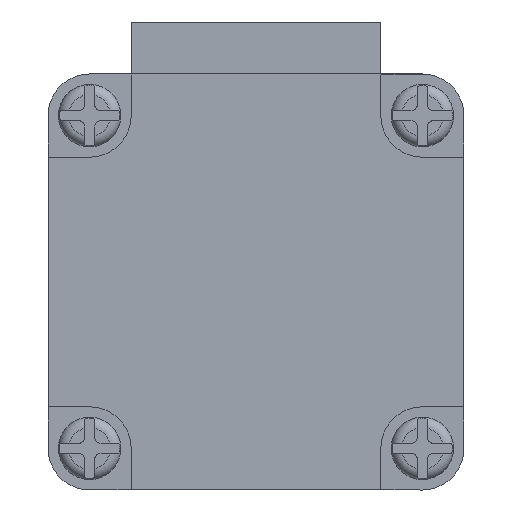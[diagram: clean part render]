
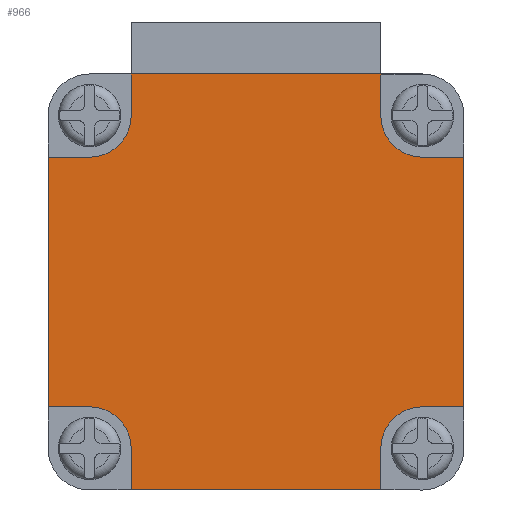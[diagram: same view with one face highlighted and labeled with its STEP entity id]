
A CAD part, front view. The second image highlights one B-rep face of the part: STEP entity #966.
In plain terms, the highlighted planar face has unit normal (0, -1, 0).
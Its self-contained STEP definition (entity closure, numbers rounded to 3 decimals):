
#5 = VECTOR ( 'NONE', #406, 1000. ) ;
#27 = CARTESIAN_POINT ( 'NONE',  ( 6., 0., 8. ) ) ;
#30 = LINE ( 'NONE', #411, #440 ) ;
#58 = EDGE_CURVE ( 'NONE', #1212, #116, #30, .T. ) ;
#64 = CARTESIAN_POINT ( 'NONE',  ( -10., 0., -6. ) ) ;
#68 = ORIENTED_EDGE ( 'NONE', *, *, #1359, .F. ) ;
#86 = DIRECTION ( 'NONE',  ( 0., 0., 1. ) ) ;
#107 = ORIENTED_EDGE ( 'NONE', *, *, #1592, .F. ) ;
#116 = VERTEX_POINT ( 'NONE', #163 ) ;
#117 = DIRECTION ( 'NONE',  ( 0., 0., 1. ) ) ;
#139 = CARTESIAN_POINT ( 'NONE',  ( -8., 0., -6. ) ) ;
#145 = ORIENTED_EDGE ( 'NONE', *, *, #1051, .F. ) ;
#163 = CARTESIAN_POINT ( 'NONE',  ( -8., 0., 6. ) ) ;
#183 = ORIENTED_EDGE ( 'NONE', *, *, #2316, .F. ) ;
#218 = CARTESIAN_POINT ( 'NONE',  ( 10., 0., 6. ) ) ;
#289 = CARTESIAN_POINT ( 'NONE',  ( 6., 0., -8. ) ) ;
#306 = ORIENTED_EDGE ( 'NONE', *, *, #354, .F. ) ;
#326 = DIRECTION ( 'NONE',  ( 0., 0., 1. ) ) ;
#344 = LINE ( 'NONE', #1732, #662 ) ;
#354 = EDGE_CURVE ( 'NONE', #467, #1357, #1077, .T. ) ;
#371 = ORIENTED_EDGE ( 'NONE', *, *, #1813, .F. ) ;
#375 = VECTOR ( 'NONE', #1034, 1000. ) ;
#399 = VECTOR ( 'NONE', #628, 1000. ) ;
#406 = DIRECTION ( 'NONE',  ( -1., 0., 0. ) ) ;
#411 = CARTESIAN_POINT ( 'NONE',  ( -8., 0., 6. ) ) ;
#417 = ORIENTED_EDGE ( 'NONE', *, *, #2176, .F. ) ;
#440 = VECTOR ( 'NONE', #2452, 1000. ) ;
#445 = CARTESIAN_POINT ( 'NONE',  ( 10., 0., 8. ) ) ;
#451 = CARTESIAN_POINT ( 'NONE',  ( -6., 0., 10. ) ) ;
#455 = DIRECTION ( 'NONE',  ( 0., 0., -1. ) ) ;
#462 = LINE ( 'NONE', #2324, #375 ) ;
#465 = EDGE_CURVE ( 'NONE', #2150, #734, #985, .T. ) ;
#467 = VERTEX_POINT ( 'NONE', #2219 ) ;
#526 = VERTEX_POINT ( 'NONE', #2262 ) ;
#533 = CARTESIAN_POINT ( 'NONE',  ( 8., 0., -8. ) ) ;
#550 = LINE ( 'NONE', #1337, #1098 ) ;
#560 = VECTOR ( 'NONE', #2341, 1000. ) ;
#566 = VERTEX_POINT ( 'NONE', #139 ) ;
#580 = VERTEX_POINT ( 'NONE', #1452 ) ;
#591 = CARTESIAN_POINT ( 'NONE',  ( -8., 0., 8. ) ) ;
#607 = CARTESIAN_POINT ( 'NONE',  ( 10., 0., -6. ) ) ;
#613 = AXIS2_PLACEMENT_3D ( 'NONE', #882, #1265, #2047 ) ;
#628 = DIRECTION ( 'NONE',  ( 0., 0., -1. ) ) ;
#651 = CARTESIAN_POINT ( 'NONE',  ( -8., 0., -8. ) ) ;
#662 = VECTOR ( 'NONE', #2376, 1000. ) ;
#708 = ORIENTED_EDGE ( 'NONE', *, *, #1390, .F. ) ;
#723 = ORIENTED_EDGE ( 'NONE', *, *, #1477, .F. ) ;
#734 = VERTEX_POINT ( 'NONE', #1952 ) ;
#766 = VERTEX_POINT ( 'NONE', #64 ) ;
#801 = CARTESIAN_POINT ( 'NONE',  ( -6., 0., -8. ) ) ;
#847 = CARTESIAN_POINT ( 'NONE',  ( 8., 0., 6. ) ) ;
#850 = CARTESIAN_POINT ( 'NONE',  ( -10., 0., 6. ) ) ;
#853 = CARTESIAN_POINT ( 'NONE',  ( -10., 0., 8. ) ) ;
#858 = AXIS2_PLACEMENT_3D ( 'NONE', #591, #2373, #1379 ) ;
#882 = CARTESIAN_POINT ( 'NONE',  ( 8., 0., 8. ) ) ;
#947 = FACE_OUTER_BOUND ( 'NONE', #1849, .T. ) ;
#966 = ADVANCED_FACE ( 'NONE', ( #947 ), #1557, .T. ) ;
#984 = AXIS2_PLACEMENT_3D ( 'NONE', #651, #2447, #2035 ) ;
#985 = LINE ( 'NONE', #1000, #1365 ) ;
#1000 = CARTESIAN_POINT ( 'NONE',  ( 6., 0., -10. ) ) ;
#1016 = VERTEX_POINT ( 'NONE', #218 ) ;
#1034 = DIRECTION ( 'NONE',  ( -1., 0., 0. ) ) ;
#1051 = EDGE_CURVE ( 'NONE', #580, #467, #1809, .T. ) ;
#1070 = DIRECTION ( 'NONE',  ( 1., 0., 0. ) ) ;
#1071 = EDGE_CURVE ( 'NONE', #766, #1212, #1855, .T. ) ;
#1077 = CIRCLE ( 'NONE', #613, 2. ) ;
#1080 = VECTOR ( 'NONE', #86, 1000. ) ;
#1088 = DIRECTION ( 'NONE',  ( 0., -1., 0. ) ) ;
#1098 = VECTOR ( 'NONE', #2169, 1000. ) ;
#1106 = LINE ( 'NONE', #1903, #560 ) ;
#1212 = VERTEX_POINT ( 'NONE', #850 ) ;
#1235 = ORIENTED_EDGE ( 'NONE', *, *, #1922, .F. ) ;
#1245 = LINE ( 'NONE', #2510, #1663 ) ;
#1265 = DIRECTION ( 'NONE',  ( 0., -1., 0. ) ) ;
#1286 = AXIS2_PLACEMENT_3D ( 'NONE', #533, #2143, #326 ) ;
#1307 = LINE ( 'NONE', #1462, #2058 ) ;
#1337 = CARTESIAN_POINT ( 'NONE',  ( 8., 0., 10. ) ) ;
#1357 = VERTEX_POINT ( 'NONE', #847 ) ;
#1359 = EDGE_CURVE ( 'NONE', #526, #2122, #1245, .T. ) ;
#1365 = VECTOR ( 'NONE', #455, 1000. ) ;
#1379 = DIRECTION ( 'NONE',  ( 0., 0., -1. ) ) ;
#1390 = EDGE_CURVE ( 'NONE', #1016, #1955, #2299, .T. ) ;
#1417 = ORIENTED_EDGE ( 'NONE', *, *, #465, .F. ) ;
#1436 = CIRCLE ( 'NONE', #1286, 2. ) ;
#1452 = CARTESIAN_POINT ( 'NONE',  ( 6., 0., 10. ) ) ;
#1462 = CARTESIAN_POINT ( 'NONE',  ( 10., 0., 6. ) ) ;
#1477 = EDGE_CURVE ( 'NONE', #566, #766, #462, .T. ) ;
#1546 = VECTOR ( 'NONE', #1645, 1000. ) ;
#1557 = PLANE ( 'NONE',  #858 ) ;
#1579 = LINE ( 'NONE', #2410, #5 ) ;
#1592 = EDGE_CURVE ( 'NONE', #2461, #580, #550, .T. ) ;
#1641 = EDGE_CURVE ( 'NONE', #1955, #2106, #1106, .T. ) ;
#1645 = DIRECTION ( 'NONE',  ( 0., 0., -1. ) ) ;
#1655 = CIRCLE ( 'NONE', #2004, 2. ) ;
#1663 = VECTOR ( 'NONE', #117, 1000. ) ;
#1695 = ORIENTED_EDGE ( 'NONE', *, *, #58, .F. ) ;
#1732 = CARTESIAN_POINT ( 'NONE',  ( -6., 0., 10. ) ) ;
#1808 = CARTESIAN_POINT ( 'NONE',  ( -6., 0., 8. ) ) ;
#1809 = LINE ( 'NONE', #27, #399 ) ;
#1811 = EDGE_CURVE ( 'NONE', #2352, #2461, #344, .T. ) ;
#1813 = EDGE_CURVE ( 'NONE', #2122, #566, #1823, .T. ) ;
#1823 = CIRCLE ( 'NONE', #984, 2. ) ;
#1825 = CARTESIAN_POINT ( 'NONE',  ( 8., 0., -6. ) ) ;
#1846 = ORIENTED_EDGE ( 'NONE', *, *, #1071, .F. ) ;
#1849 = EDGE_LOOP ( 'NONE', ( #1417, #1235, #2218, #708, #1920, #306, #145, #107, #2479, #417, #1695, #1846, #723, #371, #68, #183 ) ) ;
#1855 = LINE ( 'NONE', #853, #1080 ) ;
#1903 = CARTESIAN_POINT ( 'NONE',  ( 8., 0., -6. ) ) ;
#1918 = DIRECTION ( 'NONE',  ( 0., 0., 1. ) ) ;
#1920 = ORIENTED_EDGE ( 'NONE', *, *, #2437, .F. ) ;
#1922 = EDGE_CURVE ( 'NONE', #2106, #2150, #1436, .T. ) ;
#1952 = CARTESIAN_POINT ( 'NONE',  ( 6., 0., -10. ) ) ;
#1955 = VERTEX_POINT ( 'NONE', #607 ) ;
#2004 = AXIS2_PLACEMENT_3D ( 'NONE', #2132, #1088, #1918 ) ;
#2035 = DIRECTION ( 'NONE',  ( 0., 0., 1. ) ) ;
#2047 = DIRECTION ( 'NONE',  ( 0., 0., 1. ) ) ;
#2058 = VECTOR ( 'NONE', #1070, 1000. ) ;
#2106 = VERTEX_POINT ( 'NONE', #1825 ) ;
#2122 = VERTEX_POINT ( 'NONE', #801 ) ;
#2132 = CARTESIAN_POINT ( 'NONE',  ( -8., 0., 8. ) ) ;
#2143 = DIRECTION ( 'NONE',  ( 0., -1., 0. ) ) ;
#2150 = VERTEX_POINT ( 'NONE', #289 ) ;
#2169 = DIRECTION ( 'NONE',  ( 1., 0., 0. ) ) ;
#2176 = EDGE_CURVE ( 'NONE', #116, #2352, #1655, .T. ) ;
#2218 = ORIENTED_EDGE ( 'NONE', *, *, #1641, .F. ) ;
#2219 = CARTESIAN_POINT ( 'NONE',  ( 6., 0., 8. ) ) ;
#2262 = CARTESIAN_POINT ( 'NONE',  ( -6., 0., -10. ) ) ;
#2299 = LINE ( 'NONE', #445, #1546 ) ;
#2316 = EDGE_CURVE ( 'NONE', #734, #526, #1579, .T. ) ;
#2324 = CARTESIAN_POINT ( 'NONE',  ( -10., 0., -6. ) ) ;
#2341 = DIRECTION ( 'NONE',  ( -1., 0., 0. ) ) ;
#2352 = VERTEX_POINT ( 'NONE', #1808 ) ;
#2373 = DIRECTION ( 'NONE',  ( 0., -1., 0. ) ) ;
#2376 = DIRECTION ( 'NONE',  ( 0., 0., 1. ) ) ;
#2410 = CARTESIAN_POINT ( 'NONE',  ( 8., 0., -10. ) ) ;
#2437 = EDGE_CURVE ( 'NONE', #1357, #1016, #1307, .T. ) ;
#2447 = DIRECTION ( 'NONE',  ( 0., -1., 0. ) ) ;
#2452 = DIRECTION ( 'NONE',  ( 1., 0., 0. ) ) ;
#2461 = VERTEX_POINT ( 'NONE', #451 ) ;
#2479 = ORIENTED_EDGE ( 'NONE', *, *, #1811, .F. ) ;
#2510 = CARTESIAN_POINT ( 'NONE',  ( -6., 0., -8. ) ) ;
